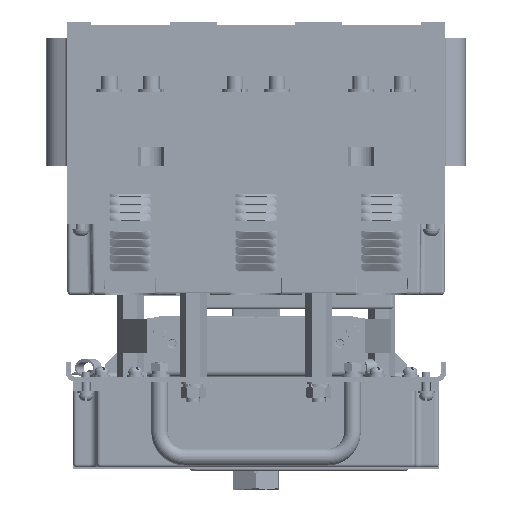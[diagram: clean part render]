
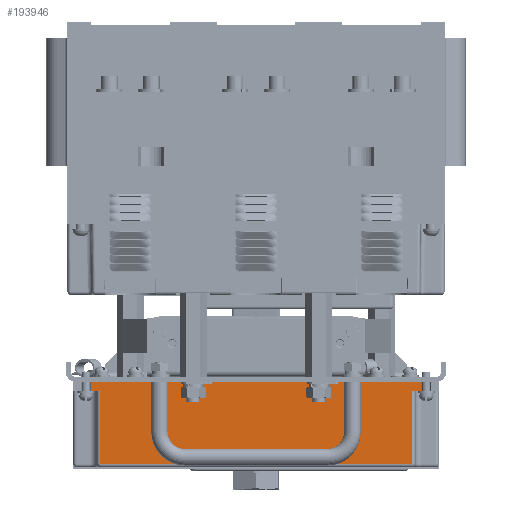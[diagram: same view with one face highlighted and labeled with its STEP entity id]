
A CAD part, front view. The second image highlights one B-rep face of the part: STEP entity #193946.
In plain terms, the highlighted planar face has unit normal (0, -1, 0).
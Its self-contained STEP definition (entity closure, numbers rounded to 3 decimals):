
#73073 = EDGE_LOOP ( 'NONE', ( #401862, #401850, #401836, #401822, #401814, #401800, #401786, #402043 ) ) ;
#76414 = DIRECTION ( 'NONE',  ( -1., 0., 0. ) ) ;
#76418 = DIRECTION ( 'NONE',  ( 0., 1., 0. ) ) ;
#76424 = PLANE ( 'NONE',  #237825 ) ;
#76459 = CARTESIAN_POINT ( 'NONE',  ( 101.765, -44.399, -242.375 ) ) ;
#76989 = VERTEX_POINT ( 'NONE', #349265 ) ;
#77236 = VERTEX_POINT ( 'NONE', #348731 ) ;
#77257 = VERTEX_POINT ( 'NONE', #348704 ) ;
#77288 = VERTEX_POINT ( 'NONE', #348656 ) ;
#77299 = VERTEX_POINT ( 'NONE', #348640 ) ;
#77327 = VERTEX_POINT ( 'NONE', #348597 ) ;
#77347 = VERTEX_POINT ( 'NONE', #348573 ) ;
#77421 = VERTEX_POINT ( 'NONE', #348474 ) ;
#94730 = VECTOR ( 'NONE', #309714, 1000. ) ;
#94738 = VECTOR ( 'NONE', #309725, 1000. ) ;
#94749 = LINE ( 'NONE', #309766, #94762 ) ;
#94762 = VECTOR ( 'NONE', #309748, 1000. ) ;
#94780 = LINE ( 'NONE', #309731, #94738 ) ;
#94794 = VECTOR ( 'NONE', #309761, 1000. ) ;
#94809 = VECTOR ( 'NONE', #309781, 1000. ) ;
#94813 = LINE ( 'NONE', #309722, #94730 ) ;
#94826 = VECTOR ( 'NONE', #309771, 1000. ) ;
#94837 = LINE ( 'NONE', #309742, #94929 ) ;
#94846 = LINE ( 'NONE', #309768, #94794 ) ;
#94854 = LINE ( 'NONE', #309779, #94826 ) ;
#94883 = LINE ( 'NONE', #309798, #94809 ) ;
#94929 = VECTOR ( 'NONE', #309745, 1000. ) ;
#94944 = LINE ( 'NONE', #309805, #96037 ) ;
#96037 = VECTOR ( 'NONE', #309792, 1000. ) ;
#98059 = EDGE_CURVE ( 'NONE', #77347, #77421, #94944, .T. ) ;
#98066 = EDGE_CURVE ( 'NONE', #77421, #77288, #94883, .T. ) ;
#98071 = EDGE_CURVE ( 'NONE', #77288, #77299, #94854, .T. ) ;
#98079 = EDGE_CURVE ( 'NONE', #77299, #77327, #94846, .T. ) ;
#98087 = EDGE_CURVE ( 'NONE', #77327, #77257, #94749, .T. ) ;
#98094 = EDGE_CURVE ( 'NONE', #77257, #77236, #94837, .T. ) ;
#98102 = EDGE_CURVE ( 'NONE', #76989, #77236, #94780, .T. ) ;
#98108 = EDGE_CURVE ( 'NONE', #77347, #76989, #94813, .T. ) ;
#193946 = ADVANCED_FACE ( 'NONE', ( #223142 ), #76424, .F. ) ;
#223142 = FACE_OUTER_BOUND ( 'NONE', #73073, .T. ) ;
#237825 = AXIS2_PLACEMENT_3D ( 'NONE', #76459, #76418, #76414 ) ;
#309714 = DIRECTION ( 'NONE',  ( 0., 0., 1. ) ) ;
#309722 = CARTESIAN_POINT ( 'NONE',  ( -91.935, -44.399, -247.875 ) ) ;
#309725 = DIRECTION ( 'NONE',  ( 1., 0., 0. ) ) ;
#309731 = CARTESIAN_POINT ( 'NONE',  ( 101.765, -44.399, -242.375 ) ) ;
#309742 = CARTESIAN_POINT ( 'NONE',  ( 105.465, -44.399, -247.875 ) ) ;
#309745 = DIRECTION ( 'NONE',  ( 0., 0., 1. ) ) ;
#309748 = DIRECTION ( 'NONE',  ( 1., 0., 0. ) ) ;
#309761 = DIRECTION ( 'NONE',  ( 0., 0., 1. ) ) ;
#309766 = CARTESIAN_POINT ( 'NONE',  ( 105.465, -44.399, -247.875 ) ) ;
#309768 = CARTESIAN_POINT ( 'NONE',  ( 99.765, -44.399, -242.375 ) ) ;
#309771 = DIRECTION ( 'NONE',  ( 1., 0., 0. ) ) ;
#309779 = CARTESIAN_POINT ( 'NONE',  ( 101.765, -44.399, -291.375 ) ) ;
#309781 = DIRECTION ( 'NONE',  ( 0., 0., -1. ) ) ;
#309792 = DIRECTION ( 'NONE',  ( 1., 0., 0. ) ) ;
#309798 = CARTESIAN_POINT ( 'NONE',  ( -86.235, -44.399, -242.375 ) ) ;
#309805 = CARTESIAN_POINT ( 'NONE',  ( 105.465, -44.399, -247.875 ) ) ;
#348474 = CARTESIAN_POINT ( 'NONE',  ( -86.235, -44.399, -247.875 ) ) ;
#348573 = CARTESIAN_POINT ( 'NONE',  ( -91.935, -44.399, -247.875 ) ) ;
#348597 = CARTESIAN_POINT ( 'NONE',  ( 99.765, -44.399, -247.875 ) ) ;
#348640 = CARTESIAN_POINT ( 'NONE',  ( 99.765, -44.399, -291.375 ) ) ;
#348656 = CARTESIAN_POINT ( 'NONE',  ( -86.235, -44.399, -291.375 ) ) ;
#348704 = CARTESIAN_POINT ( 'NONE',  ( 105.465, -44.399, -247.875 ) ) ;
#348731 = CARTESIAN_POINT ( 'NONE',  ( 105.465, -44.399, -242.375 ) ) ;
#349265 = CARTESIAN_POINT ( 'NONE',  ( -91.935, -44.399, -242.375 ) ) ;
#401786 = ORIENTED_EDGE ( 'NONE', *, *, #98102, .F. ) ;
#401800 = ORIENTED_EDGE ( 'NONE', *, *, #98094, .T. ) ;
#401814 = ORIENTED_EDGE ( 'NONE', *, *, #98087, .T. ) ;
#401822 = ORIENTED_EDGE ( 'NONE', *, *, #98079, .T. ) ;
#401836 = ORIENTED_EDGE ( 'NONE', *, *, #98071, .T. ) ;
#401850 = ORIENTED_EDGE ( 'NONE', *, *, #98066, .T. ) ;
#401862 = ORIENTED_EDGE ( 'NONE', *, *, #98059, .T. ) ;
#402043 = ORIENTED_EDGE ( 'NONE', *, *, #98108, .F. ) ;
